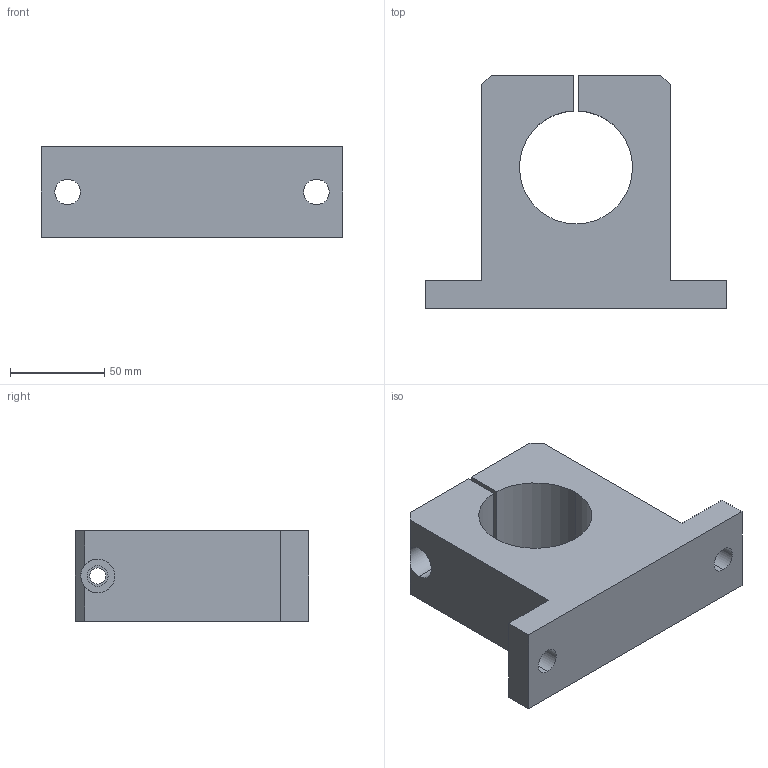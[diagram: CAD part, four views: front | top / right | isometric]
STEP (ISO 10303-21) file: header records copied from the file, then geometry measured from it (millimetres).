
FILE_DESCRIPTION (( 'STEP AP214' ), '1' );
FILE_NAME ('KWB55-60.step', '2020-03-04T13:40:13', ( '' ), ( '' ), 'SwSTEP 2.0', 'SolidWorks 2019', '' );
FILE_SCHEMA (( 'AUTOMOTIVE_DESIGN' ));
Length unit declared in the file: millimetre
Products named in the file (1): KWB55-60
Bounding box: 160 x 124 x 48 mm (x, y, z)
Volume: 485582.2 mm3; surface area: 62142.2 mm2
Topology: 1 solids, 1 shells, 29 faces, 81 edges, 54 vertices
Faces by surface type: plane 16, cylinder 13
Entity records: 1014 total; most frequent: CARTESIAN_POINT 168, DIRECTION 167, ORIENTED_EDGE 162, EDGE_CURVE 81, AXIS2_PLACEMENT_3D 57, VERTEX_POINT 54, VECTOR 53, LINE 53
